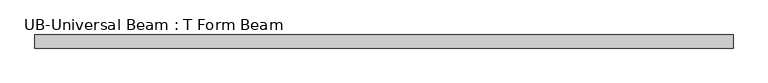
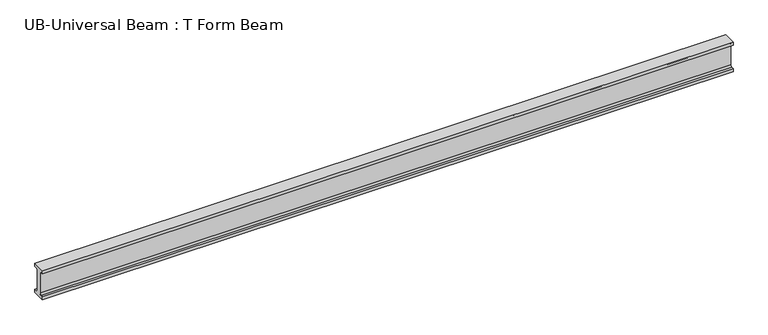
"""IFC4 building model written with IfcOpenShell, lengths in millimetres: beam geometry, UB-Universal Beam : T Form Beam."""

from ifc_helpers import new_model, si_unit, point, frame, frame_2d, origin, place, context, project, spatial, polyline, circle_curve, trimmed, segment, composite_curve, outline, extrude, source, transform, mapped, element, save


def ub_universal_beam_t_form_beam_0052a870(model_context):
    return source(origin(), model_context, "Body", "SweptSolid", [
        extrude(outline(composite_curve([segment(polyline([(101.6, -190.5), (101.6, -241.3), (-101.6, -241.3), (-101.6, -190.5), (-63.5, -190.5)]), True, "CONTINUOUS"), segment(trimmed(circle_curve(frame_2d((-63.5, -165.1)), 25.4), [point((-63.5, -190.5))], [point((-38.1, -165.1))], True, "CARTESIAN"), True, "CONTINUOUS"), segment(polyline([(-38.1, -165.1), (-38.1, 165.1)]), True, "CONTINUOUS"), segment(trimmed(circle_curve(frame_2d((-63.5, 165.1)), 25.4), [point((-38.1, 165.1))], [point((-63.5, 190.5))], True, "CARTESIAN"), True, "CONTINUOUS"), segment(polyline([(-63.5, 190.5), (-101.6, 190.5), (-101.6, 241.3), (101.6, 241.3), (101.6, 190.5), (63.5, 190.5)]), True, "CONTINUOUS"), segment(trimmed(circle_curve(frame_2d((63.5, 165.1)), 25.4), [point((63.5, 190.5))], [point((38.1, 165.1))], True, "CARTESIAN"), True, "CONTINUOUS"), segment(polyline([(38.1, 165.1), (38.1, -165.1)]), True, "CONTINUOUS"), segment(trimmed(circle_curve(frame_2d((63.5, -165.1)), 25.4), [point((38.1, -165.1))], [point((63.5, -190.5))], True, "CARTESIAN"), True, "CONTINUOUS"), segment(polyline([(63.5, -190.5), (101.6, -190.5)]), True, "CONTINUOUS")], self_intersect=False)), frame((-5080.8126034, 0.0, 0.0), z_axis=(1.0, 0.0, 0.0), x_axis=(0.0, 1.0, 0.0)), (0.0, 0.0, 1.0), 10783.0876034),
    ])


if __name__ == "__main__":
    model = new_model("IFC4")
    model_context = context("Model", 3, world=origin())
    ifc_project = project(units=[si_unit("LENGTHUNIT", "METRE", prefix="MILLI")], contexts=[model_context])
    site = spatial("IfcSite", under=ifc_project)
    building = spatial("IfcBuilding", under=site)
    placement = place(None, origin())
    ub_universal_beam_t_form_beam_shape = ub_universal_beam_t_form_beam_0052a870(model_context)
    element("IfcBeam", 1, ObjectType="UB-Universal Beam : T Form Beam", at=placement, inside=building, context=model_context, shape_type="MappedRepresentation", body=[
        mapped(ub_universal_beam_t_form_beam_shape, transform((0.0, 0.0, 0.0), x_axis=(1.0, 0.0, 0.0), y_axis=(0.0, 1.0, 0.0), z_axis=(0.0, 0.0, 1.0))),
    ])
    save(model, "model.ifc")
